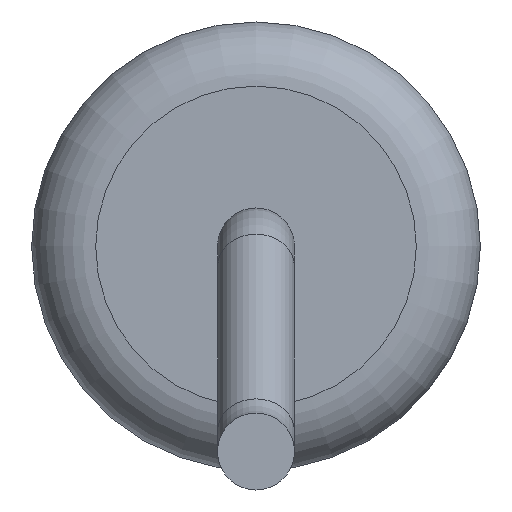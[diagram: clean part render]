
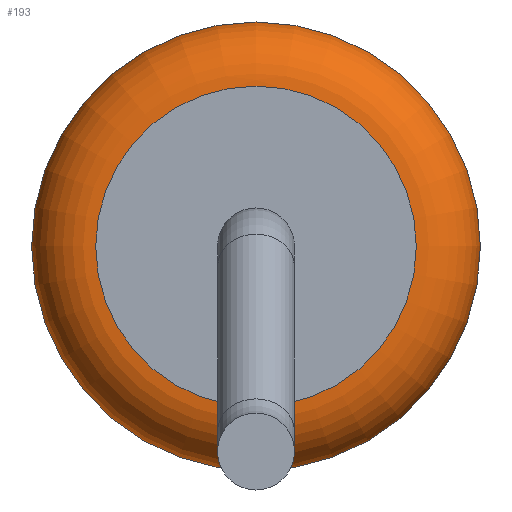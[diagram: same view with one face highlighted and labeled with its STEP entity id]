
A CAD part, left-side view. The second image highlights one B-rep face of the part: STEP entity #193.
In plain terms, the highlighted toroidal (fillet/blend) face has major radius 1.25 mm and minor radius 0.5 mm.
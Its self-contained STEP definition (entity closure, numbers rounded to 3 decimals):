
#193=ADVANCED_FACE('',(#398,#400),#402,.T.);
#398=FACE_OUTER_BOUND('',#399,.T.);
#399=EDGE_LOOP('',(#497));
#400=FACE_OUTER_BOUND('',#401,.T.);
#401=EDGE_LOOP('',(#498));
#402=TOROIDAL_SURFACE('',#403,1.25,0.5);
#403=AXIS2_PLACEMENT_3D('',#404,#405,#406);
#404=CARTESIAN_POINT('',(-3.,0.,0.));
#405=DIRECTION('',(-1.,0.,0.));
#406=DIRECTION('',(0.,0.,1.));
#497=ORIENTED_EDGE('',*,*,#526,.T.);
#498=ORIENTED_EDGE('',*,*,#527,.F.);
#526=EDGE_CURVE('',#562,#562,#563,.T.);
#527=EDGE_CURVE('',#564,#564,#565,.T.);
#562=VERTEX_POINT('',#648);
#563=CIRCLE('',#649,1.75);
#564=VERTEX_POINT('',#653);
#565=CIRCLE('',#654,1.25);
#648=CARTESIAN_POINT('',(-3.,0.,1.75));
#649=AXIS2_PLACEMENT_3D('',#650,#651,#652);
#650=CARTESIAN_POINT('',(-3.,0.,0.));
#651=DIRECTION('',(-1.,0.,0.));
#652=DIRECTION('',(0.,0.,1.));
#653=CARTESIAN_POINT('',(-3.5,0.,1.25));
#654=AXIS2_PLACEMENT_3D('',#655,#656,#657);
#655=CARTESIAN_POINT('',(-3.5,0.,0.));
#656=DIRECTION('',(-1.,0.,0.));
#657=DIRECTION('',(0.,0.,1.));
